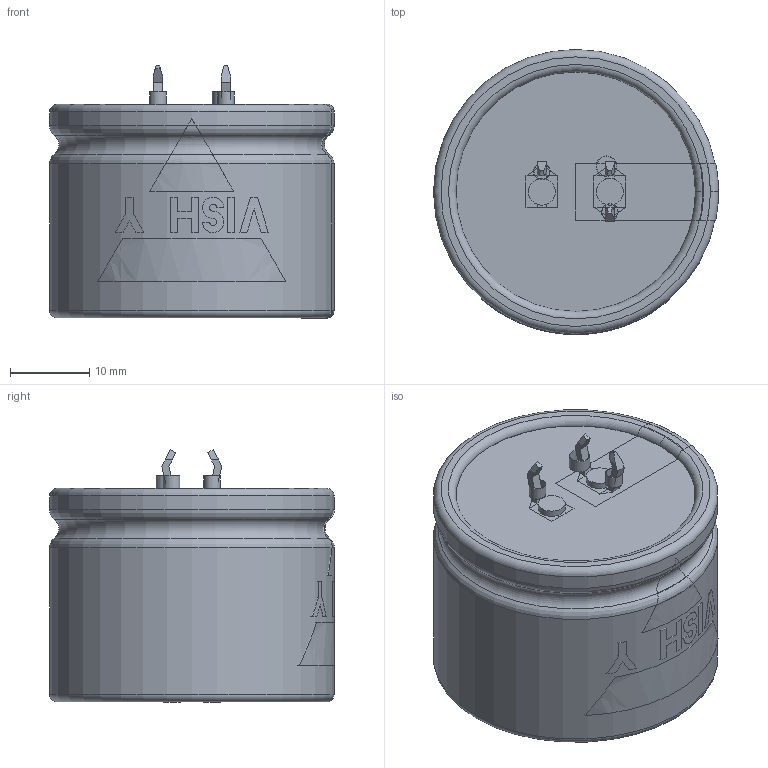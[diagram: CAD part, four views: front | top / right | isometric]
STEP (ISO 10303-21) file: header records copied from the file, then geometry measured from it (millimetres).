
FILE_DESCRIPTION(('FreeCAD Model'),'2;1');
FILE_NAME( 'C:/Users/Gebruiker/Documents/FreeCAD/SnapIn_35x25_3pin_4.0.step', '2020-11-12T21:16:55',('Author'),(''), 'Open CASCADE STEP processor 6.8','FreeCAD','Unknown');
FILE_SCHEMA(('AUTOMOTIVE_DESIGN_CC2 { 1 2 10303 214 -1 1 5 4 }'));
Length unit declared in the file: millimetre
Products named in the file (9): ASSEMBLY; TerminalMinKP; PCBHolesKP; TerminalPlus; Disc; BottomInsulation; Can3D; InkMinusBar; InkLogo
Assembly tree (8 placements, depth 2):
  ASSEMBLY
    TerminalMinKP
    PCBHolesKP
    TerminalPlus
    Disc
    BottomInsulation
    Can3D
    InkMinusBar
    InkLogo
Bounding box: 36.05 x 36.05 x 31.95 mm (x, y, z)
Volume: 32218.9 mm3; surface area: 13800.1 mm2
Topology: 16 solids, 16 shells, 192 faces, 458 edges, 298 vertices
Faces by surface type: plane 140, cylinder 31, torus 21
Full cylindrical faces by diameter (mm): 2 x2, 2.1 x2, 2.5 x1, 2.6 x1, 3.4 x2, 28.8 x2, 30.3 x1, 36 x2
Entity records: 21661 total; most frequent: CARTESIAN_POINT 11447, DIRECTION 1556, ORIENTED_EDGE 916, PCURVE 916, DEFINITIONAL_REPRESENTATION 916, LINE 851, VECTOR 851, EDGE_CURVE 458
